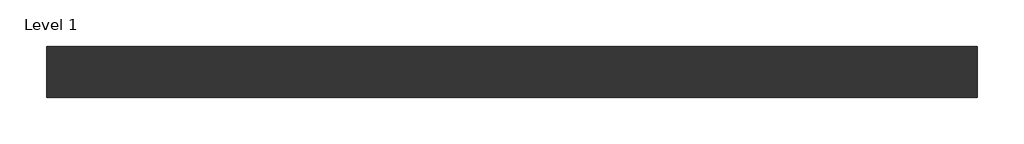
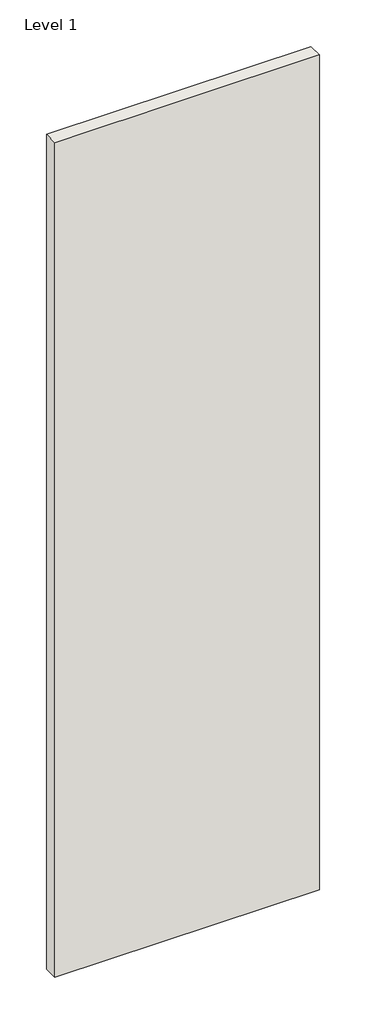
# One storey: 1 wall.
"""IFC4 building model written with IfcOpenShell, lengths in millimetres."""

from ifc_helpers import new_model, si_unit, origin, origin_with_axes, place, context, project, spatial, polyline, outline, extrude, element, save

model = new_model("IFC4")

# Units and contexts
model_context = context("Model", 3, world=origin())
ifc_project = project(units=[si_unit("LENGTHUNIT", "METRE", prefix="MILLI")], contexts=[model_context])

# Site, building, storey
site = spatial("IfcSite", under=ifc_project)
building = spatial("IfcBuilding", under=site)
storey = spatial("IfcBuildingStorey", under=building, Name="Level 1", Elevation=0.0)

# Wall
placement = place(None, origin())
element("IfcWall", 1, ObjectType="Revestimiento de fachada SATE con Lana mineral Isover TF PROFI y mortero Weber", at=placement, inside=storey, context=model_context, shape_type="SweptSolid", body=[
    extrude(outline(polyline([(737.0051279, -2063.0445576), (-462.9948721, -2063.0445576), (-462.9948721, -1997.0445576), (737.0051279, -1997.0445576), (737.0051279, -2063.0445576)])), origin_with_axes(), (0.0, 0.0, 1.0), 4000.0),
])

save(model, "model.ifc")
